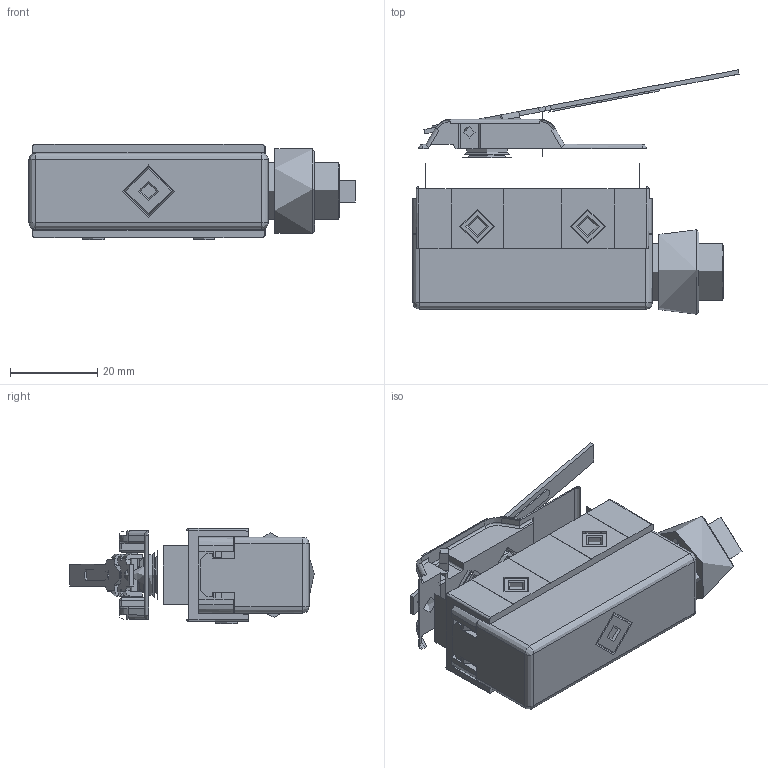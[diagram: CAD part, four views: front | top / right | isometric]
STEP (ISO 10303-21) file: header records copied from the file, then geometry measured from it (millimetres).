
FILE_DESCRIPTION((''),'2; 1');
FILE_NAME('','2026-03-27T16:32:16',(''),(''),'CST STEP Exporter V1.0','Unknown','');
FILE_SCHEMA(('CONFIG_CONTROL_DESIGN'));
Length unit declared in the file: metre
Assembly tree (13 placements, depth 2):
  (unnamed)
    (unnamed)
    (unnamed)
    (unnamed)
    (unnamed)
    (unnamed)
    (unnamed)
    (unnamed)
    (unnamed)
    (unnamed)
    (unnamed)
    (unnamed)
    (unnamed)
    (unnamed)
Bounding box: 74.94 x 56.13 x 21.9 mm (x, y, z)
Topology: 0 solids, 38 shells, 344 faces, 938 edges, 607 vertices
Faces by surface type: plane 170, cylinder 124, torus 25, sphere 17, cone 7, bspline 1
Full cylindrical faces by diameter (mm): 1 x12, 2 x5, 2.5 x1, 2.6 x3, 3.5 x1, 3.9 x1, 4 x1, 4.2 x2, 5 x2, 5.2 x2, 5.7 x1, 6 x1, 7.5 x2, 8 x5, 8.2 x1, 9.3 x1, 13 x2, 16 x1, 19.4 x1
Entity records: 14676 total; most frequent: CARTESIAN_POINT 2971, DIRECTION 1823, ORIENTED_EDGE 1603, EDGE_CURVE 904, AXIS2_PLACEMENT_3D 649, VERTEX_POINT 618, VECTOR 525, LINE 525
